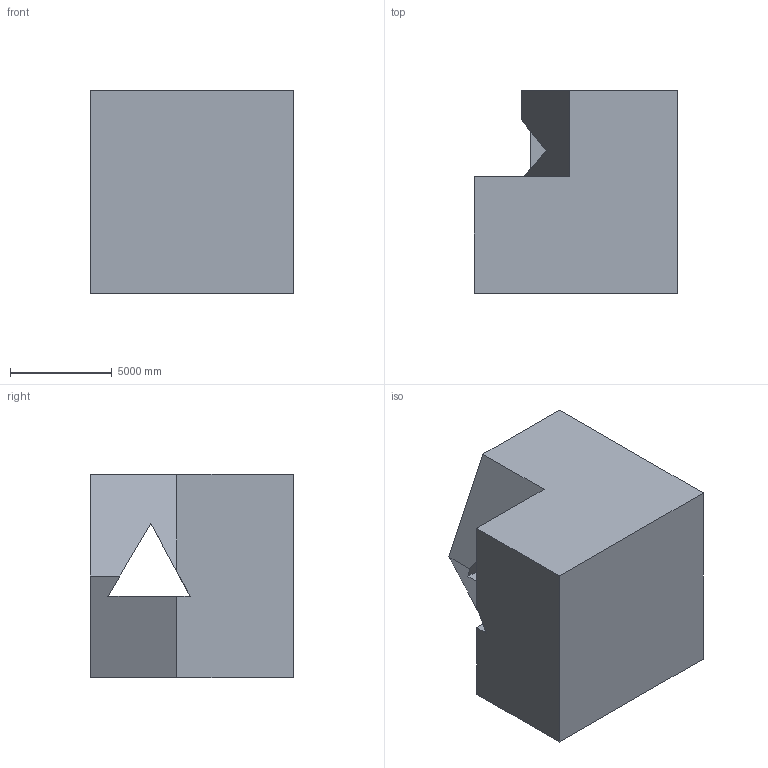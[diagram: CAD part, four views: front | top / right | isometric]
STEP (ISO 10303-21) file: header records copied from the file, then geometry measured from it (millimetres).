
FILE_DESCRIPTION (( 'STEP AP203' ), '1' );
FILE_NAME ('122.STEP', '2022-07-28T13:40:15', ( 'user' ), ( '' ), 'SwSTEP 2.0', 'SolidWorks 2021', '' );
FILE_SCHEMA (( 'CONFIG_CONTROL_DESIGN' ));
Length unit declared in the file: centimetre
Products named in the file (1): 122
Bounding box: 10000 x 10000 x 10000 mm (x, y, z)
Volume: 797406326857.1 mm3; surface area: 639970539.9 mm2
Topology: 1 solids, 1 shells, 13 faces, 36 edges, 24 vertices
Faces by surface type: plane 13
Entity records: 491 total; most frequent: CARTESIAN_POINT 74, ORIENTED_EDGE 72, DIRECTION 64, LINE 36, VECTOR 36, EDGE_CURVE 36, VERTEX_POINT 24, EDGE_LOOP 14
